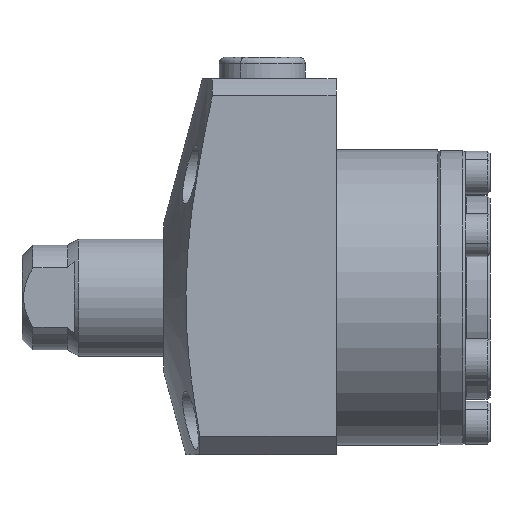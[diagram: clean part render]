
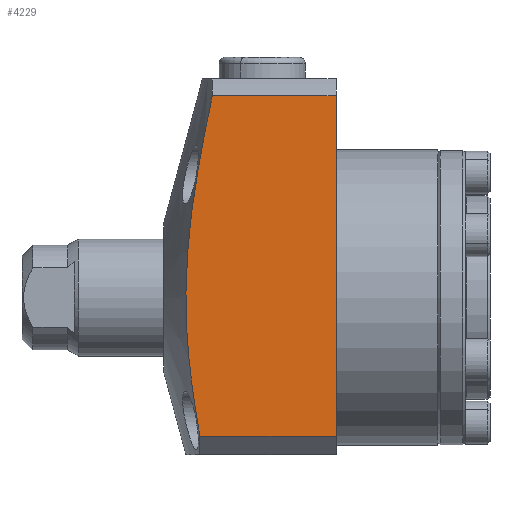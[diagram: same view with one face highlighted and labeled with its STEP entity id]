
A CAD part, left-side view. The second image highlights one B-rep face of the part: STEP entity #4229.
In plain terms, the highlighted planar face has unit normal (-1, 0, 0).
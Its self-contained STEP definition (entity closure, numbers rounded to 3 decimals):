
#33 = CARTESIAN_POINT ( 'NONE',  ( -25.5, 23.047, 16.736 ) ) ;
#366 = CARTESIAN_POINT ( 'NONE',  ( -25.5, 0., 32.741 ) ) ;
#447 = CARTESIAN_POINT ( 'NONE',  ( -25.5, 22.883, -17.904 ) ) ;
#465 = CARTESIAN_POINT ( 'NONE',  ( -25.5, 22.32, 21.336 ) ) ;
#514 = FACE_OUTER_BOUND ( 'NONE', #671, .T. ) ;
#671 = EDGE_LOOP ( 'NONE', ( #4334, #4590, #812, #3299 ) ) ;
#812 = ORIENTED_EDGE ( 'NONE', *, *, #2105, .F. ) ;
#832 = DIRECTION ( 'NONE',  ( 1., 0., 0. ) ) ;
#894 = CARTESIAN_POINT ( 'NONE',  ( -25.5, 23.798, -10.994 ) ) ;
#913 = CARTESIAN_POINT ( 'NONE',  ( -25.5, 21.039, 28.192 ) ) ;
#916 = CARTESIAN_POINT ( 'NONE',  ( -25.5, 0., 32.741 ) ) ;
#1106 = DIRECTION ( 'NONE',  ( 0., 0., -1. ) ) ;
#1269 = VECTOR ( 'NONE', #1106, 1000. ) ;
#1348 = CARTESIAN_POINT ( 'NONE',  ( -25.5, 24.324, -4.075 ) ) ;
#1365 = CARTESIAN_POINT ( 'NONE',  ( -25.5, 20.095, 32.741 ) ) ;
#1526 = LINE ( 'NONE', #916, #3868 ) ;
#1532 = LINE ( 'NONE', #2432, #2579 ) ;
#1667 = AXIS2_PLACEMENT_3D ( 'NONE', #4774, #832, #3907 ) ;
#1775 = CARTESIAN_POINT ( 'NONE',  ( -25.5, 24.367, 2.854 ) ) ;
#2062 = EDGE_CURVE ( 'NONE', #4870, #4296, #1532, .T. ) ;
#2105 = EDGE_CURVE ( 'NONE', #5484, #4296, #3591, .T. ) ;
#2241 = CARTESIAN_POINT ( 'NONE',  ( -25.5, 23.918, 9.794 ) ) ;
#2430 = CARTESIAN_POINT ( 'NONE',  ( -25.5, 22.103, -22.5 ) ) ;
#2432 = CARTESIAN_POINT ( 'NONE',  ( -25.5, 28., -22.5 ) ) ;
#2579 = VECTOR ( 'NONE', #5480, 1000. ) ;
#2596 = PLANE ( 'NONE',  #1667 ) ;
#2680 = CARTESIAN_POINT ( 'NONE',  ( -25.5, 23.369, 14.426 ) ) ;
#2683 = DIRECTION ( 'NONE',  ( 0., 1., 0. ) ) ;
#2693 = EDGE_CURVE ( 'NONE', #5484, #5386, #1526, .T. ) ;
#2882 = CARTESIAN_POINT ( 'NONE',  ( -25.5, 0., -25.5 ) ) ;
#3114 = CARTESIAN_POINT ( 'NONE',  ( -25.5, 22.873, 17.888 ) ) ;
#3299 = ORIENTED_EDGE ( 'NONE', *, *, #2693, .T. ) ;
#3314 = EDGE_CURVE ( 'NONE', #4870, #5386, #5177, .T. ) ;
#3533 = CARTESIAN_POINT ( 'NONE',  ( -25.5, 23.527, -13.298 ) ) ;
#3552 = CARTESIAN_POINT ( 'NONE',  ( -25.5, 21.911, 23.626 ) ) ;
#3591 = LINE ( 'NONE', #2882, #1269 ) ;
#3868 = VECTOR ( 'NONE', #2683, 1000. ) ;
#3907 = DIRECTION ( 'NONE',  ( 0., 0., -1. ) ) ;
#3951 = CARTESIAN_POINT ( 'NONE',  ( -25.5, 22.103, -22.5 ) ) ;
#3971 = CARTESIAN_POINT ( 'NONE',  ( -25.5, 24.196, -6.382 ) ) ;
#3985 = CARTESIAN_POINT ( 'NONE',  ( -25.5, 20.576, 30.469 ) ) ;
#4229 = ADVANCED_FACE ( 'NONE', ( #514 ), #2596, .F. ) ;
#4296 = VERTEX_POINT ( 'NONE', #5235 ) ;
#4334 = ORIENTED_EDGE ( 'NONE', *, *, #3314, .F. ) ;
#4405 = CARTESIAN_POINT ( 'NONE',  ( -25.5, 24.409, 0.543 ) ) ;
#4590 = ORIENTED_EDGE ( 'NONE', *, *, #2062, .T. ) ;
#4774 = CARTESIAN_POINT ( 'NONE',  ( -25.5, 28., 35.5 ) ) ;
#4834 = CARTESIAN_POINT ( 'NONE',  ( -25.5, 22.51, -20.207 ) ) ;
#4852 = CARTESIAN_POINT ( 'NONE',  ( -25.5, 24.121, 7.479 ) ) ;
#4870 = VERTEX_POINT ( 'NONE', #2430 ) ;
#5133 = CARTESIAN_POINT ( 'NONE',  ( -25.5, 20.095, 32.741 ) ) ;
#5177 = B_SPLINE_CURVE_WITH_KNOTS ( 'NONE', 3,
 ( #3951, #4834, #447, #3533, #894, #3971, #1348, #4405, #1775, #4852, #2241, #5279, #2680, #33, #3114, #465, #3552, #913, #3985, #1365 ),
 .UNSPECIFIED., .F., .F.,
 ( 4, 2, 2, 2, 2, 2, 2, 2, 2, 4 ),
 ( 0.028, 0.035, 0.042, 0.049, 0.056, 0.063, 0.067, 0.07, 0.077, 0.084 ),
 .UNSPECIFIED. ) ;
#5235 = CARTESIAN_POINT ( 'NONE',  ( -25.5, 0., -22.5 ) ) ;
#5279 = CARTESIAN_POINT ( 'NONE',  ( -25.5, 23.518, 13.267 ) ) ;
#5386 = VERTEX_POINT ( 'NONE', #5133 ) ;
#5480 = DIRECTION ( 'NONE',  ( 0., -1., 0. ) ) ;
#5484 = VERTEX_POINT ( 'NONE', #366 ) ;
